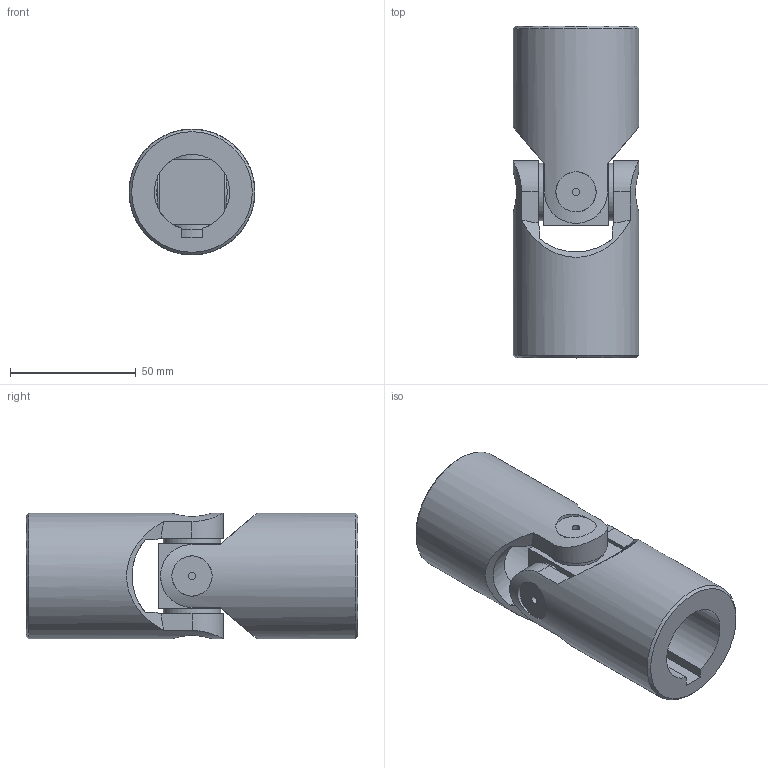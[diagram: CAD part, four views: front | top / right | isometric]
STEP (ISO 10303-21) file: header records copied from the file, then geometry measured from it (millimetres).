
FILE_DESCRIPTION(/* description */ (''),/* implementation_level */ '2;1');
FILE_NAME(/* name */ '\\SRV2016\Societa\Stefano\Disegni 3D\Dis. Clienti\0000Catalogo 3D\01Singoli G-GB\Ø50_6GB-1C_SGBS301C.stp',/* time_stamp */ '2021-11-10T15:06:02+01:00',/* author */ ('acquisti'),/* organization */ (''),/* preprocessor_version */ 'ST-DEVELOPER v15.6',/* originating_system */ 'Autodesk Inventor 2015',/* authorisation */ '');
FILE_SCHEMA (('CONFIG_CONTROL_DESIGN','AUTOMOTIVE_DESIGN { 1 0 10303 214 3 1 1 }'));
Length unit declared in the file: millimetre
Products named in the file (4): 5G SFE; 6GB MOS; 6GB MOC; Assieme9
Assembly tree (3 placements, depth 2):
  Assieme9
    5G SFE
    6GB MOS
    6GB MOC
Bounding box: 50 x 132 x 50 mm (x, y, z)
Volume: 159514.9 mm3; surface area: 40211.1 mm2
Topology: 3 solids, 3 shells, 78 faces, 190 edges, 127 vertices
Faces by surface type: plane 41, cylinder 22, cone 10, torus 5
Full cylindrical faces by diameter (mm): 3 x4, 16 x4, 23 x4, 30 x1, 50 x2
Entity records: 2728 total; most frequent: CARTESIAN_POINT 962, ORIENTED_EDGE 342, DIRECTION 333, EDGE_CURVE 171, AXIS2_PLACEMENT_3D 145, VERTEX_POINT 127, EDGE_LOOP 110, FACE_OUTER_BOUND 78
